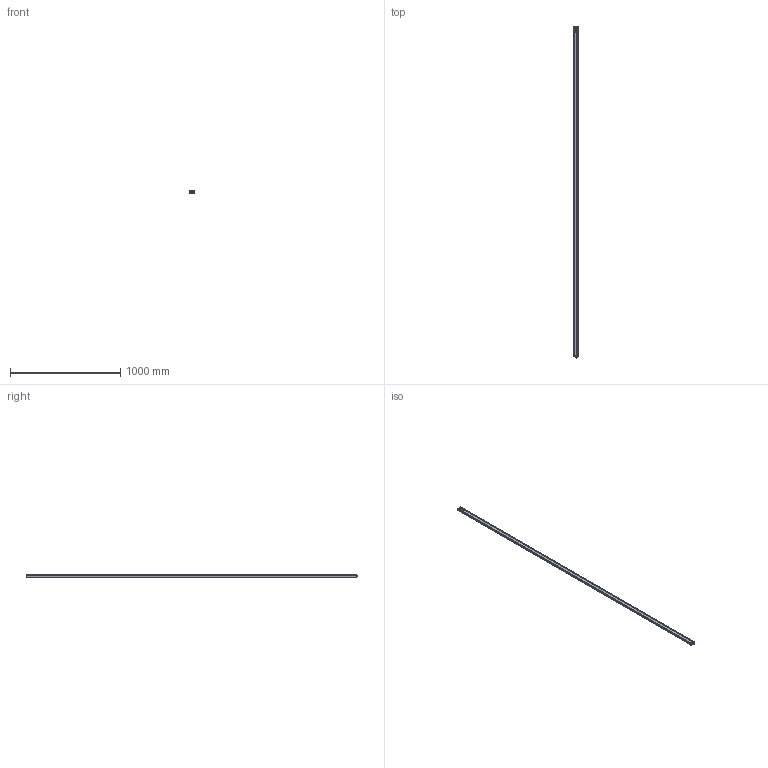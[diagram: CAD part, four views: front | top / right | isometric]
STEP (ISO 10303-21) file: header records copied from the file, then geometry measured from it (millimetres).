
FILE_DESCRIPTION(/* description */ (''),/* implementation_level */ '2;1');
FILE_NAME(/* name */ 'C:\Users\andre\SynologyDrive\Optoscan\Libreria Componenti\00 - Barriere\Polaris sorgente\Barriera Polaris RX\Polaris_3000_RX.stp',/* time_stamp */ '2021-06-04T12:14:10+02:00',/* author */ ('andre'),/* organization */ (''),/* preprocessor_version */ 'ST-DEVELOPER v18',/* originating_system */ 'Autodesk Inventor 2020',/* authorisation */ '');
FILE_SCHEMA (('AUTOMOTIVE_DESIGN { 1 0 10303 214 3 1 1 }'));
Length unit declared in the file: millimetre
Products named in the file (1): Polaris_3000_RX
Bounding box: 40.5 x 3009.3 x 20.75 mm (x, y, z)
Volume: 590251.8 mm3; surface area: 786366.7 mm2
Topology: 1 solids, 1 shells, 684 faces, 1882 edges, 1205 vertices
Faces by surface type: plane 315, cylinder 195, bspline 94, torus 62, sphere 10, cone 8
Full cylindrical faces by diameter (mm): 1 x8, 2.5 x4, 3 x4, 3.5 x4, 5.5 x4, 8 x1, 10.5 x2, 11.75 x9, 15.7 x1, 17.5 x1
Entity records: 27899 total; most frequent: CARTESIAN_POINT 10154, ORIENTED_EDGE 3738, DIRECTION 3331, EDGE_CURVE 1869, VERTEX_POINT 1205, AXIS2_PLACEMENT_3D 1155, LINE 1021, VECTOR 1021
